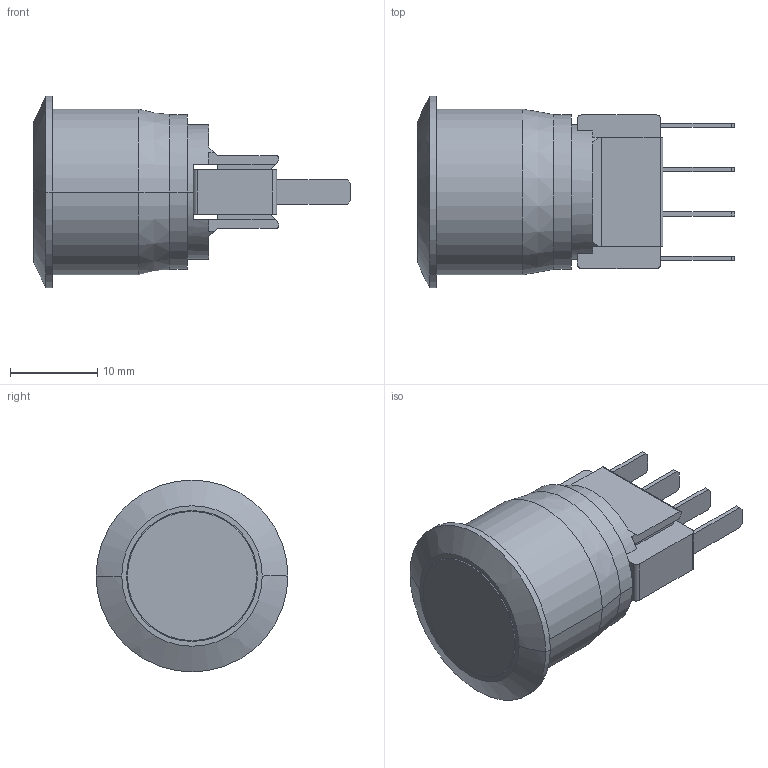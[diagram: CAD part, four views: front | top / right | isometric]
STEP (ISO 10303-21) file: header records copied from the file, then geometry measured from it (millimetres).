
FILE_DESCRIPTION((''),'2;1');
FILE_NAME('AV19LP407','2014-12-22T',('brevel'),(''),'PRO/ENGINEER BY PARAMETRIC TECHNOLOGY CORPORATION, 2013410','PRO/ENGINEER BY PARAMETRIC TECHNOLOGY CORPORATION, 2013410','');
FILE_SCHEMA(('CONFIG_CONTROL_DESIGN'));
Length unit declared in the file: millimetre
Products named in the file (1): AV19LP407
Bounding box: 36.41 x 22 x 22 mm (x, y, z)
Surface area: 3786.7 mm2 (no closed solid volume)
Topology: 0 solids, 9 shells, 118 faces, 342 edges, 226 vertices
Faces by surface type: plane 94, cylinder 18, cone 4, bspline 2
Entity records: 3861 total; most frequent: CARTESIAN_POINT 724, DIRECTION 636, ORIENTED_EDGE 620, EDGE_CURVE 342, VECTOR 272, LINE 272, VERTEX_POINT 226, AXIS2_PLACEMENT_3D 182
